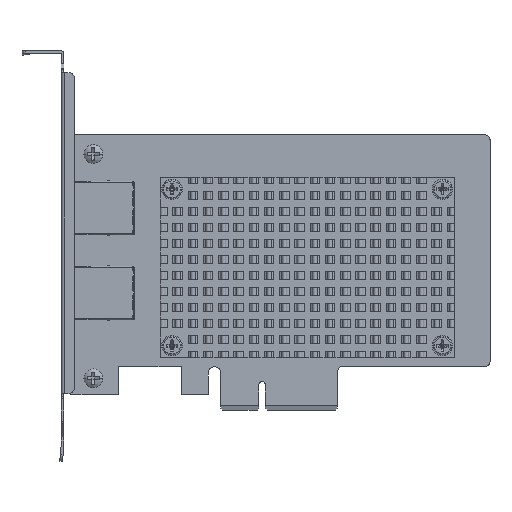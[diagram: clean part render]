
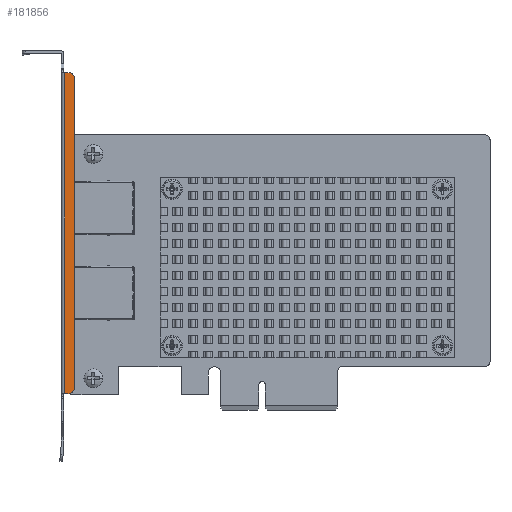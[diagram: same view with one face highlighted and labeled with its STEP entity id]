
A CAD part, top view. The second image highlights one B-rep face of the part: STEP entity #181856.
In plain terms, the highlighted planar face has unit normal (0, 0, 1).
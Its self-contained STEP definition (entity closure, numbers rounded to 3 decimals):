
#72773=CARTESIAN_POINT('',(-56.75,-62.57,17.15));
#72774=DIRECTION('',(0.,0.,-1.));
#72775=DIRECTION('',(1.,0.,0.));
#72776=AXIS2_PLACEMENT_3D('',#72773,#72774,#72775);
#72781=DIRECTION('',(-1.,0.,0.));
#72782=VECTOR('',#72781,1.3);
#72783=CARTESIAN_POINT('',(-56.75,-64.07,17.15));
#72784=LINE('',#72783,#72782);
#72788=DIRECTION('',(1.,0.,0.));
#72789=VECTOR('',#72788,1.3);
#72790=CARTESIAN_POINT('',(-58.05,30.28,17.15));
#72791=LINE('',#72790,#72789);
#72795=CARTESIAN_POINT('',(-56.75,28.78,17.15));
#72796=DIRECTION('',(0.,0.,-1.));
#72797=DIRECTION('',(0.,1.,0.));
#72798=AXIS2_PLACEMENT_3D('',#72795,#72796,#72797);
#72803=DIRECTION('',(0.,-1.,0.));
#72804=VECTOR('',#72803,91.35);
#72805=CARTESIAN_POINT('',(-55.25,28.78,17.15));
#72806=LINE('',#72805,#72804);
#72817=DIRECTION('',(0.,-1.,0.));
#72818=VECTOR('',#72817,94.35);
#72819=CARTESIAN_POINT('',(-58.05,30.28,17.15));
#72820=LINE('',#72819,#72818);
#122038=CARTESIAN_POINT('',(-58.05,30.28,17.15));
#122039=VERTEX_POINT('',#122038);
#122042=CARTESIAN_POINT('',(-58.05,-64.07,17.15));
#122043=VERTEX_POINT('',#122042);
#122044=CARTESIAN_POINT('',(-55.25,-62.57,17.15));
#122045=CARTESIAN_POINT('',(-56.75,-64.07,17.15));
#122046=VERTEX_POINT('',#122044);
#122047=VERTEX_POINT('',#122045);
#122048=CARTESIAN_POINT('',(-56.75,30.28,17.15));
#122049=VERTEX_POINT('',#122048);
#122050=CARTESIAN_POINT('',(-55.25,28.78,17.15));
#122051=VERTEX_POINT('',#122050);
#181839=CARTESIAN_POINT('',(-59.05,-72.67,17.15));
#181840=DIRECTION('',(0.,0.,1.));
#181841=DIRECTION('',(0.,-1.,0.));
#181842=AXIS2_PLACEMENT_3D('',#181839,#181840,#181841);
#181843=PLANE('',#181842);
#181844=ORIENTED_EDGE('',*,*,#181830,.T.);
#181845=ORIENTED_EDGE('',*,*,#181784,.T.);
#181847=ORIENTED_EDGE('',*,*,#181846,.F.);
#181849=ORIENTED_EDGE('',*,*,#181848,.T.);
#181851=ORIENTED_EDGE('',*,*,#181850,.T.);
#181853=ORIENTED_EDGE('',*,*,#181852,.T.);
#181854=EDGE_LOOP('',(#181844,#181845,#181847,#181849,#181851,#181853));
#181855=FACE_OUTER_BOUND('',#181854,.F.);
#181856=ADVANCED_FACE('',(#181855),#181843,.T.);
#72777=CIRCLE('',#72776,1.5);
#72799=CIRCLE('',#72798,1.5);
#181784=EDGE_CURVE('',#122047,#122043,#72784,.T.);
#181830=EDGE_CURVE('',#122046,#122047,#72777,.T.);
#181846=EDGE_CURVE('',#122039,#122043,#72820,.T.);
#181848=EDGE_CURVE('',#122039,#122049,#72791,.T.);
#181850=EDGE_CURVE('',#122049,#122051,#72799,.T.);
#181852=EDGE_CURVE('',#122051,#122046,#72806,.T.);
